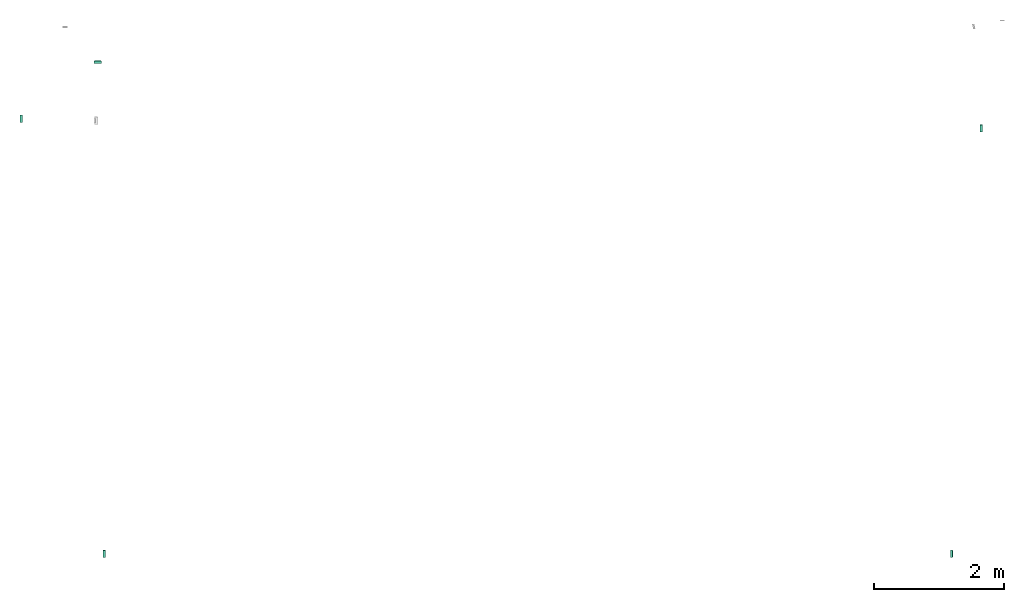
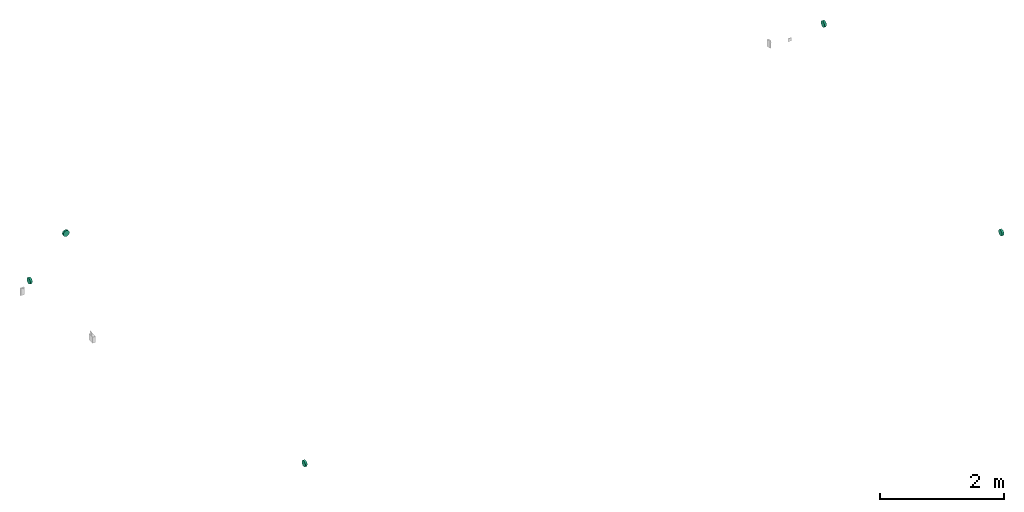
# One storey, part 1 of 5: 5 flow fittings.
"""IFC2X3 building model written with IfcOpenShell, lengths in millimetres."""

from ifc_helpers import new_model, entity, si_unit, converted_unit, derived_unit, direction, frame, origin_with_axes, place, context, subcontext, project, spatial, open_shell, surface_model, source, transform, mapped, type_object, element, save


model = new_model("IFC2X3")

# Units and contexts
model_context = context("Model", 3, precision=0.01, world=frame((0.0, 4.29681676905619e-09, 0.0)), true_north=direction((4.01073788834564e-13, 1.0)))
plan_context = context("Plan", 3, precision=0.01, world=frame((0.0, 4.29681676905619e-09, 0.0)), true_north=direction((4.01073788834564e-13, 1.0)))
body_context = subcontext(model_context, "Body", "Model", "MODEL_VIEW")
ifc_project = project(units=[converted_unit("PLANEANGLEUNIT", "DEGREE", entity("IfcPositiveLengthMeasure", 0.0174532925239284), si_unit("PLANEANGLEUNIT", "RADIAN"), dimensions=[0, 0, 0, 0, 0, 0, 0]), si_unit("AREAUNIT", "SQUARE_METRE"), si_unit("LENGTHUNIT", "METRE", prefix="MILLI"), si_unit("MASSUNIT", "GRAM", prefix="KILO"), si_unit("POWERUNIT", "WATT"), si_unit("PRESSUREUNIT", "PASCAL", prefix="KILO"), si_unit("FORCEUNIT", "NEWTON", prefix="KILO"), si_unit("ELECTRICVOLTAGEUNIT", "VOLT"), si_unit("ELECTRICCURRENTUNIT", "AMPERE"), si_unit("THERMODYNAMICTEMPERATUREUNIT", "DEGREE_CELSIUS"), si_unit("TIMEUNIT", "SECOND"), si_unit("VOLUMEUNIT", "CUBIC_METRE"), derived_unit("LINEARVELOCITYUNIT", [(si_unit("LENGTHUNIT", "METRE"), 1), (si_unit("TIMEUNIT", "SECOND"), -1)]), derived_unit("VOLUMETRICFLOWRATEUNIT", [(si_unit("VOLUMEUNIT", "CUBIC_METRE"), 1), (si_unit("TIMEUNIT", "SECOND"), -1)]), derived_unit("THERMALTRANSMITTANCEUNIT", [(si_unit("POWERUNIT", "WATT"), 1), (si_unit("THERMODYNAMICTEMPERATUREUNIT", "KELVIN"), -1), (si_unit("AREAUNIT", "SQUARE_METRE"), -1)]), derived_unit("SOUNDPRESSUREUNIT", [(si_unit("PRESSUREUNIT", "PASCAL"), 1)])], contexts=[model_context, plan_context])

# Site, building, storey
site_placement = place(None, frame((0.0, -4.29681676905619e-09, 0.0), z_axis=(0.0, 0.0, 1.0), x_axis=(1.0, 0.0, 0.0)))
site = spatial("IfcSite", under=ifc_project, at=site_placement, Name="ENGM", CompositionType="ELEMENT")
building_placement = place(site_placement, frame((0.0, 4.29681676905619e-09, 0.0), z_axis=(0.0, 0.0, 1.0), x_axis=(1.0, 0.0, 0.0)))
building = spatial("IfcBuilding", under=site, at=building_placement, Name="TI", CompositionType="ELEMENT")
storey_placement = place(building_placement, frame((0.0, 0.0, 210900.0), z_axis=(0.0, 0.0, 1.0), x_axis=(1.0, 0.0, 0.0)))
storey = spatial("IfcBuildingStorey", under=building, at=storey_placement, Name="Nivå F", CompositionType="ELEMENT", Elevation=210900.0)

# Flow fittings
junction_box_type = type_object("IfcJunctionBoxType", Name="Junction box round1", PredefinedType="NOTDEFINED")
shared_shape = source(origin_with_axes(), body_context, "Body", "SurfaceModel", [
    surface_model("IfcShellBasedSurfaceModel", [(-42.32699, 41.1, 24.4375), (-48.875, 41.1, 0.0), (-47.20962, 41.1, 12.64978), (-24.4375, 41.1, 42.32699), (-34.55984, 41.1, 34.55984), (-12.64978, 41.1, 47.20962), (0.0, 41.1, 48.875), (-24.4375, 41.1, -42.32699), (-42.32699, 41.1, -24.4375), (-47.20962, 41.1, -12.64978), (-34.55984, 41.1, -34.55984), (42.32699, 41.1, 24.4375), (-12.64978, 41.1, -47.20962), (34.55984, 41.1, 34.55984), (12.64978, 41.1, 47.20962), (24.4375, 41.1, 42.32699), (47.20962, 41.1, 12.64978), (48.875, 41.1, 0.0), (34.55984, 41.1, -34.55984), (12.64978, 41.1, -47.20962), (24.4375, 41.1, -42.32699), (0.0, 41.1, -48.875), (42.32699, 41.1, -24.4375), (47.20962, 41.1, -12.64978), (48.875, 40.9, 0.0), (47.20962, 40.9, 12.64978), (42.32699, 40.9, 24.4375), (-12.64978, 40.9, -47.20962), (34.55984, 40.9, 34.55984), (24.4375, 40.9, 42.32699), (12.64978, 40.9, 47.20962), (0.0, 40.9, -48.875), (34.55984, 40.9, -34.55984), (42.32699, 40.9, -24.4375), (47.20962, 40.9, -12.64978), (12.64978, 40.9, -47.20962), (24.4375, 40.9, -42.32699), (0.0, 40.9, 48.875), (-12.64978, 40.9, 47.20962), (-34.55984, 40.9, 34.55984), (-24.4375, 40.9, 42.32699), (-42.32699, 40.9, 24.4375), (-47.20962, 40.9, 12.64978), (-24.4375, 40.9, -42.32699), (-42.32699, 40.9, -24.4375), (-34.55984, 40.9, -34.55984), (-48.875, 40.9, 0.0), (-47.20962, 40.9, -12.64978), (47.6496, 41.0, -10.87571), (38.21201, 41.0, -30.47307), (21.20607, 41.0, -44.03485), (0.0, 41.0, -48.875), (47.6496, 41.0, 10.87571), (38.21201, 41.0, 30.47307), (0.0, 41.0, 48.875), (21.20607, 41.0, 44.03485), (-21.20607, 41.0, -44.03485), (-38.21201, 41.0, -30.47307), (-47.6496, 41.0, -10.87571), (-21.20607, 41.0, 44.03485), (-47.6496, 41.0, 10.87571), (-38.21201, 41.0, 30.47307), (-24.94832, 34.85, -51.80571), (56.05836, 34.85, 12.79495), (44.95531, 34.85, 35.85066), (24.94832, 34.85, -51.80571), (44.95531, 34.85, -35.85066), (56.05836, 34.85, -12.79495), (0.0, 34.85, -57.5), (24.94832, 34.85, 51.80571), (-56.05836, 34.85, -12.79495), (0.0, 34.85, 57.5), (-24.94832, 34.85, 51.80571), (-56.05836, 34.85, 12.79495), (-44.95531, 34.85, 35.85066), (-44.95531, 34.85, -35.85066), (-14.13908, 41.0, 45.64785), (-12.47416, 34.85, 54.65286), (-50.50683, 34.85, 24.32281), (-42.93081, 41.0, 20.67439), (-56.05836, 34.85, 0.0), (-34.95181, 34.85, 43.82819), (-29.70904, 41.0, 37.25396), (-42.93081, 41.0, -20.67439), (-50.50683, 34.85, -24.32281), (-47.6496, 41.0, 0.0), (-10.60303, 41.0, -46.45493), (-34.95181, 34.85, -43.82819), (-29.70904, 41.0, -37.25396), (-16.63421, 34.85, -53.70335), (14.13908, 41.0, -45.64785), (12.47416, 34.85, -54.65286), (50.50683, 34.85, -24.32281), (42.93081, 41.0, -20.67439), (56.05836, 34.85, 0.0), (34.95181, 34.85, -43.82819), (29.70904, 41.0, -37.25396), (42.93081, 41.0, 20.67439), (50.50683, 34.85, 24.32281), (47.6496, 41.0, 0.0), (10.60303, 41.0, 46.45493), (34.95181, 34.85, 43.82819), (29.70904, 41.0, 37.25396), (16.63421, 34.85, 53.70335), (-49.79646, 34.85, 28.75), (-57.5, 34.85, 0.0), (-55.54074, 34.85, 14.88209), (-28.75, 34.85, 49.79646), (-40.65864, 34.85, 40.65864), (-49.79646, 34.85, -28.75), (-14.88209, 34.85, 55.54074), (40.65864, 34.85, 40.65864), (-55.54074, 34.85, -14.88209), (-28.75, 34.85, -49.79646), (-40.65864, 34.85, -40.65864), (-14.88209, 34.85, -55.54074), (57.5, 34.85, 0.0), (14.88209, 34.85, 55.54074), (28.75, 34.85, 49.79646), (55.54074, 34.85, 14.88209), (49.79646, 34.85, 28.75), (28.75, 34.85, -49.79646), (14.88209, 34.85, -55.54074), (40.65864, 34.85, -40.65864), (55.54074, 34.85, -14.88209), (49.79646, 34.85, -28.75), (40.65864, 0.0, 40.65864), (57.5, 0.0, 0.0), (55.54074, 0.0, 14.88209), (49.79646, 0.0, 28.75), (28.75, 0.0, 49.79646), (14.88209, 0.0, 55.54074), (55.54074, 0.0, -14.88209), (40.65864, 0.0, -40.65864), (49.79646, 0.0, -28.75), (0.0, 0.0, -57.5), (28.75, 0.0, -49.79646), (14.88209, 0.0, -55.54074), (-28.75, 0.0, 49.79646), (-14.88209, 0.0, 55.54074), (-14.88209, 0.0, -55.54074), (-49.79646, 0.0, 28.75), (-57.5, 0.0, 0.0), (-40.65864, 0.0, 40.65864), (-55.54074, 0.0, 14.88209), (-28.75, 0.0, -49.79646), (-49.79646, 0.0, -28.75), (-40.65864, 0.0, -40.65864), (-55.54074, 0.0, -14.88209), (0.0, 0.0, 57.5)], [open_shell([[[0, 1, 2]], [[3, 0, 4]], [[5, 6, 0]], [[5, 0, 3]], [[7, 0, 6]], [[1, 8, 9]], [[1, 0, 8]], [[8, 7, 10]], [[0, 7, 8]], [[7, 11, 12]], [[7, 6, 13]], [[14, 15, 13]], [[13, 11, 7]], [[11, 16, 17]], [[17, 12, 11]], [[12, 17, 18]], [[19, 18, 20]], [[18, 19, 21]], [[18, 21, 12]], [[17, 22, 18]], [[17, 23, 22]], [[13, 6, 14]], [[24, 25, 26]], [[27, 24, 26]], [[28, 29, 30]], [[27, 26, 28]], [[31, 24, 27]], [[24, 32, 33]], [[33, 34, 24]], [[32, 35, 36]], [[35, 32, 31]], [[31, 32, 24]], [[37, 28, 30]], [[38, 27, 37]], [[39, 38, 40]], [[38, 41, 27]], [[41, 38, 39]], [[42, 27, 41]], [[43, 44, 45]], [[44, 43, 27]], [[44, 46, 47]], [[46, 44, 27]], [[27, 42, 46]], [[37, 27, 28]], [[27, 12, 31]], [[43, 7, 27]], [[8, 45, 44]], [[43, 45, 10]], [[9, 44, 47]], [[27, 7, 12]], [[12, 21, 31]], [[9, 8, 44]], [[10, 45, 8]], [[10, 7, 43]], [[1, 9, 47]], [[47, 46, 1]], [[42, 2, 46]], [[41, 0, 42]], [[3, 39, 40]], [[41, 39, 4]], [[5, 40, 38]], [[41, 4, 0]], [[0, 2, 42]], [[6, 5, 38]], [[3, 40, 5]], [[3, 4, 39]], [[37, 6, 38]], [[46, 2, 1]], [[30, 14, 37]], [[29, 15, 30]], [[11, 28, 26]], [[29, 28, 13]], [[16, 26, 25]], [[30, 15, 14]], [[14, 6, 37]], [[16, 11, 26]], [[13, 28, 11]], [[13, 15, 29]], [[17, 16, 25]], [[25, 24, 17]], [[34, 23, 24]], [[33, 22, 34]], [[20, 32, 36]], [[33, 32, 18]], [[19, 36, 35]], [[33, 18, 22]], [[22, 23, 34]], [[21, 19, 35]], [[20, 36, 19]], [[20, 18, 32]], [[31, 21, 35]], [[24, 23, 17]], [[48, 49, 50]], [[48, 50, 51]], [[52, 48, 53]], [[54, 55, 53]], [[54, 53, 48]], [[48, 51, 56]], [[54, 56, 57]], [[54, 57, 58]], [[59, 54, 60]], [[60, 61, 59]], [[54, 58, 60]], [[56, 54, 48]], [[62, 63, 64]], [[65, 63, 62]], [[66, 67, 65]], [[65, 67, 63]], [[65, 62, 68]], [[69, 62, 64]], [[70, 71, 72]], [[73, 72, 74]], [[62, 71, 75]], [[75, 71, 70]], [[72, 73, 70]], [[71, 62, 69]], [[59, 72, 76]], [[76, 72, 77]], [[78, 79, 60]], [[54, 76, 77]], [[58, 70, 80]], [[61, 81, 82]], [[72, 82, 81]], [[77, 71, 54]], [[70, 83, 84]], [[82, 72, 59]], [[61, 79, 74]], [[57, 75, 84]], [[80, 85, 58]], [[73, 85, 80]], [[84, 83, 57]], [[60, 73, 78]], [[86, 51, 68]], [[74, 79, 78]], [[61, 74, 81]], [[87, 88, 56]], [[89, 56, 86]], [[70, 58, 83]], [[75, 88, 87]], [[75, 57, 88]], [[62, 56, 89]], [[56, 62, 87]], [[60, 85, 73]], [[68, 89, 86]], [[50, 65, 90]], [[90, 65, 91]], [[92, 93, 48]], [[51, 90, 91]], [[52, 63, 94]], [[49, 95, 96]], [[65, 96, 95]], [[91, 68, 51]], [[63, 97, 98]], [[96, 65, 50]], [[49, 93, 66]], [[53, 64, 98]], [[94, 99, 52]], [[67, 99, 94]], [[98, 97, 53]], [[48, 67, 92]], [[100, 54, 71]], [[66, 93, 92]], [[49, 66, 95]], [[101, 102, 55]], [[103, 55, 100]], [[63, 52, 97]], [[64, 102, 101]], [[64, 53, 102]], [[69, 55, 103]], [[55, 69, 101]], [[48, 99, 67]], [[71, 103, 100]], [[104, 105, 106]], [[107, 104, 108]], [[109, 107, 110]], [[107, 109, 104]], [[110, 111, 109]], [[105, 109, 112]], [[105, 104, 109]], [[109, 113, 114]], [[113, 109, 115]], [[109, 116, 115]], [[117, 110, 71]], [[117, 118, 111]], [[111, 116, 109]], [[119, 116, 111]], [[119, 111, 120]], [[115, 116, 68]], [[68, 121, 122]], [[121, 68, 123]], [[123, 124, 125]], [[124, 123, 68]], [[68, 116, 124]], [[111, 110, 117]], [[126, 127, 128]], [[126, 128, 129]], [[126, 130, 131]], [[127, 126, 132]], [[132, 126, 131]], [[132, 133, 134]], [[133, 132, 135]], [[136, 135, 137]], [[135, 136, 133]], [[132, 131, 135]], [[131, 138, 135]], [[131, 139, 138]], [[140, 135, 138]], [[138, 141, 142]], [[141, 138, 143]], [[141, 144, 142]], [[145, 146, 147]], [[146, 145, 140]], [[146, 142, 148]], [[146, 140, 138]], [[138, 142, 146]], [[139, 131, 149]], [[140, 115, 135]], [[145, 113, 140]], [[109, 147, 146]], [[145, 147, 114]], [[112, 146, 148]], [[140, 113, 115]], [[115, 68, 135]], [[112, 109, 146]], [[114, 147, 109]], [[114, 113, 145]], [[105, 112, 148]], [[148, 142, 105]], [[144, 106, 142]], [[141, 104, 144]], [[107, 143, 138]], [[141, 143, 108]], [[110, 138, 139]], [[141, 108, 104]], [[104, 106, 144]], [[149, 71, 110]], [[107, 138, 110]], [[107, 108, 143]], [[139, 149, 110]], [[142, 106, 105]], [[131, 117, 149]], [[130, 118, 131]], [[120, 126, 129]], [[130, 126, 111]], [[119, 129, 128]], [[131, 118, 117]], [[117, 71, 149]], [[119, 120, 129]], [[111, 126, 120]], [[111, 118, 130]], [[116, 119, 128]], [[128, 127, 116]], [[127, 132, 124]], [[121, 136, 137]], [[136, 123, 133]], [[122, 137, 135]], [[124, 134, 125]], [[134, 124, 132]], [[125, 134, 123]], [[134, 133, 123]], [[136, 121, 123]], [[122, 121, 137]], [[135, 68, 122]], [[127, 124, 116]]])]),
])
for number, where, z_axis, x_axis, name in (
    (1, (585771.47265, 577503.19053, 2300.0), (0.0, 0.0, 1.0), (1.0, 0.0, 0.0), "Junction box round1"),
    (2, (585851.863, 569979.99813, 2300.0), (0.0, 0.0, 1.0), (0.0, -1.0, 0.0), "Junction box round1"),
    (3, (598842.8553, 569983.3112, 2300.0), (0.0, 0.0, 1.0), (0.0, -1.0, 0.0), "Junction box round1"),
    (4, (599298.89705, 576505.01208, 2300.0), (0.0, 0.0, 1.0), (0.0, -1.0, 0.0), "Junction box round1"),
    (5, (584578.579, 576654.29922, 2300.0), (0.0, 0.0, 1.0), (0.0, -1.0, 0.0), "Junction box round1"),
):
    element("IfcFlowFitting", number, at=place(storey_placement, frame(where, z_axis=z_axis, x_axis=x_axis)), inside=storey, type_object=junction_box_type, Name=name, context=body_context, shape_type="MappedRepresentation", body=[
        mapped(shared_shape, transform((0.0, 0.0, 0.0), scale=1.0)),
    ])

save(model, "model.ifc")
